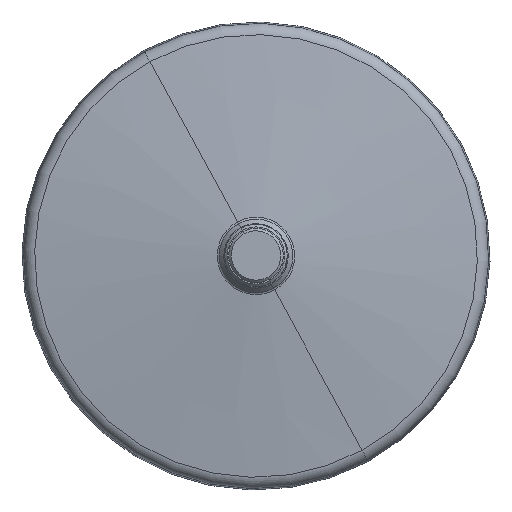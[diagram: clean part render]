
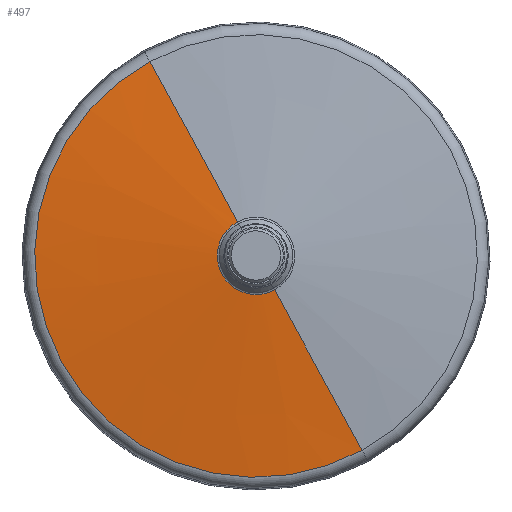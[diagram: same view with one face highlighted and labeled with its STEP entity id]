
A CAD part, top view. The second image highlights one B-rep face of the part: STEP entity #497.
In plain terms, the highlighted conical face has half-angle 82.947 degrees and reference radius 14.877 mm.
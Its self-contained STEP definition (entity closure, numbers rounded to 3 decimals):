
#433=CARTESIAN_POINT('Vertex',(40.806,-74.695,15.962)) ;
#436=CARTESIAN_POINT('Axis2P3D Location',(0.,0.,15.962)) ;
#440=CARTESIAN_POINT('Vertex',(-40.806,74.695,15.962)) ;
#467=CARTESIAN_POINT('Axis2P3D Location',(0.,0.,24.653)) ;
#472=CARTESIAN_POINT('Line Origine',(23.969,-43.875,20.307)) ;
#476=CARTESIAN_POINT('Vertex',(7.133,-13.056,24.653)) ;
#479=CARTESIAN_POINT('Axis2P3D Location',(0.,0.,24.653)) ;
#483=CARTESIAN_POINT('Vertex',(-7.133,13.056,24.653)) ;
#486=CARTESIAN_POINT('Line Origine',(-23.969,43.875,20.307)) ;
#437=DIRECTION('Axis2P3D Direction',(0.,0.,1.)) ;
#468=DIRECTION('Axis2P3D Direction',(-0.,-0.,-1.)) ;
#469=DIRECTION('Axis2P3D XDirection',(-0.479,0.878,0.)) ;
#473=DIRECTION('Vector Direction',(0.476,-0.871,-0.123)) ;
#480=DIRECTION('Axis2P3D Direction',(0.,0.,-1.)) ;
#487=DIRECTION('Vector Direction',(-0.476,0.871,-0.123)) ;
#438=AXIS2_PLACEMENT_3D('Circle Axis2P3D',#436,#437,$) ;
#470=AXIS2_PLACEMENT_3D('Cone Axis2P3D',#467,#468,#469) ;
#481=AXIS2_PLACEMENT_3D('Circle Axis2P3D',#479,#480,$) ;
#492=ORIENTED_EDGE('',*,*,#478,.T.) ;
#493=ORIENTED_EDGE('',*,*,#485,.F.) ;
#494=ORIENTED_EDGE('',*,*,#490,.F.) ;
#495=ORIENTED_EDGE('',*,*,#442,.T.) ;
#474=VECTOR('Line Direction',#473,1.) ;
#488=VECTOR('Line Direction',#487,1.) ;
#497=ADVANCED_FACE('PartBody',(#496),#471,.T.) ;
#439=CIRCLE('generated circle',#438,85.114) ;
#482=CIRCLE('generated circle',#481,14.877) ;
#471=CONICAL_SURFACE('Cone',#470,14.877,1.448) ;
#442=EDGE_CURVE('',#441,#434,#439,.T.) ;
#478=EDGE_CURVE('',#434,#477,#475,.F.) ;
#485=EDGE_CURVE('',#484,#477,#482,.F.) ;
#490=EDGE_CURVE('',#441,#484,#489,.F.) ;
#491=EDGE_LOOP('',(#492,#493,#494,#495)) ;
#496=FACE_OUTER_BOUND('',#491,.T.) ;
#475=LINE('Line',#472,#474) ;
#489=LINE('Line',#486,#488) ;
#434=VERTEX_POINT('',#433) ;
#441=VERTEX_POINT('',#440) ;
#477=VERTEX_POINT('',#476) ;
#484=VERTEX_POINT('',#483) ;
